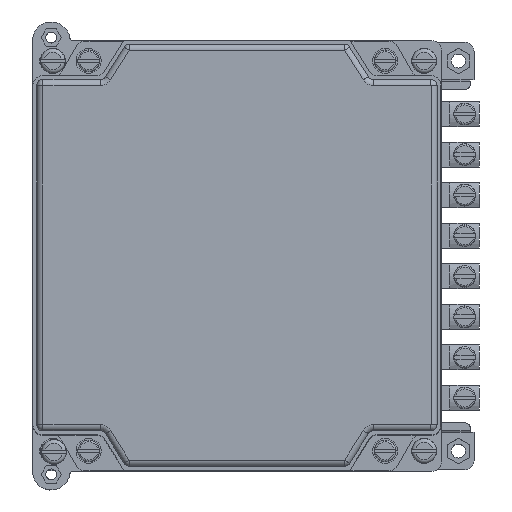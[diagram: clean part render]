
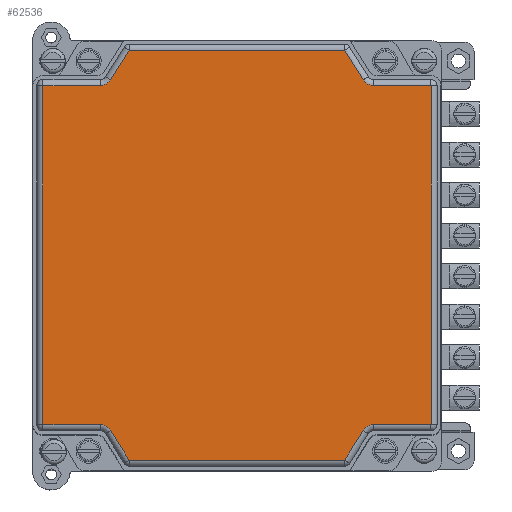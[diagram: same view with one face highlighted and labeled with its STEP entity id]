
A CAD part, top view. The second image highlights one B-rep face of the part: STEP entity #62536.
In plain terms, the highlighted planar face has unit normal (0, 0, 1).
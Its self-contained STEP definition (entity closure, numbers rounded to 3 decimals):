
#62536=ADVANCED_FACE('',(#119009),#119011,.T.);
#119009=FACE_BOUND('',#119010,.T.);
#119010=EDGE_LOOP('',(#161676,#161677,#161678,#161679,#161680,#161681,#161682,#161683,
#161684,#161685,#161686,#161687,#161688,#161689,#161690,#161691,#161692,#161693,
#161694,#161695,#161696,#161697,#161698,#161699));
#119011=PLANE('',#119012);
#119012=AXIS2_PLACEMENT_3D('',#119013,#119014,#119015);
#119013=CARTESIAN_POINT('',(0.,0.,156.5));
#119014=DIRECTION('',(0.,0.,1.));
#119015=DIRECTION('',(1.,0.,0.));
#161676=ORIENTED_EDGE('',*,*,#182718,.T.);
#161677=ORIENTED_EDGE('',*,*,#182765,.T.);
#161678=ORIENTED_EDGE('',*,*,#182763,.T.);
#161679=ORIENTED_EDGE('',*,*,#182761,.T.);
#161680=ORIENTED_EDGE('',*,*,#182759,.T.);
#161681=ORIENTED_EDGE('',*,*,#182757,.T.);
#161682=ORIENTED_EDGE('',*,*,#182755,.T.);
#161683=ORIENTED_EDGE('',*,*,#182753,.T.);
#161684=ORIENTED_EDGE('',*,*,#182751,.T.);
#161685=ORIENTED_EDGE('',*,*,#182749,.T.);
#161686=ORIENTED_EDGE('',*,*,#182747,.T.);
#161687=ORIENTED_EDGE('',*,*,#182745,.T.);
#161688=ORIENTED_EDGE('',*,*,#182743,.T.);
#161689=ORIENTED_EDGE('',*,*,#182741,.T.);
#161690=ORIENTED_EDGE('',*,*,#182739,.T.);
#161691=ORIENTED_EDGE('',*,*,#182737,.T.);
#161692=ORIENTED_EDGE('',*,*,#182735,.T.);
#161693=ORIENTED_EDGE('',*,*,#182733,.T.);
#161694=ORIENTED_EDGE('',*,*,#182731,.T.);
#161695=ORIENTED_EDGE('',*,*,#182729,.T.);
#161696=ORIENTED_EDGE('',*,*,#182727,.T.);
#161697=ORIENTED_EDGE('',*,*,#182725,.T.);
#161698=ORIENTED_EDGE('',*,*,#182723,.T.);
#161699=ORIENTED_EDGE('',*,*,#182721,.T.);
#182718=EDGE_CURVE('',#215075,#215076,#215077,.T.);
#182721=EDGE_CURVE('',#215080,#215075,#215081,.T.);
#182723=EDGE_CURVE('',#215083,#215080,#215084,.T.);
#182725=EDGE_CURVE('',#215086,#215083,#215087,.T.);
#182727=EDGE_CURVE('',#215089,#215086,#215090,.T.);
#182729=EDGE_CURVE('',#215092,#215089,#215093,.T.);
#182731=EDGE_CURVE('',#215095,#215092,#215096,.T.);
#182733=EDGE_CURVE('',#215098,#215095,#215099,.T.);
#182735=EDGE_CURVE('',#215101,#215098,#215102,.T.);
#182737=EDGE_CURVE('',#215104,#215101,#215105,.T.);
#182739=EDGE_CURVE('',#215107,#215104,#215108,.T.);
#182741=EDGE_CURVE('',#215110,#215107,#215111,.T.);
#182743=EDGE_CURVE('',#215113,#215110,#215114,.T.);
#182745=EDGE_CURVE('',#215116,#215113,#215117,.T.);
#182747=EDGE_CURVE('',#215119,#215116,#215120,.T.);
#182749=EDGE_CURVE('',#215122,#215119,#215123,.T.);
#182751=EDGE_CURVE('',#215125,#215122,#215126,.T.);
#182753=EDGE_CURVE('',#215128,#215125,#215129,.T.);
#182755=EDGE_CURVE('',#215131,#215128,#215132,.T.);
#182757=EDGE_CURVE('',#215134,#215131,#215135,.T.);
#182759=EDGE_CURVE('',#215137,#215134,#215138,.T.);
#182761=EDGE_CURVE('',#215140,#215137,#215141,.T.);
#182763=EDGE_CURVE('',#215143,#215140,#215144,.T.);
#182765=EDGE_CURVE('',#215076,#215143,#215146,.T.);
#215075=VERTEX_POINT('',#291507);
#215076=VERTEX_POINT('',#291508);
#215077=LINE('',#291509,#291510);
#215080=VERTEX_POINT('',#291520);
#215081=CIRCLE('',#291521,0.064);
#215083=VERTEX_POINT('',#291529);
#215084=LINE('',#291530,#291531);
#215086=VERTEX_POINT('',#291537);
#215087=CIRCLE('',#291538,3.936);
#215089=VERTEX_POINT('',#291546);
#215090=LINE('',#291547,#291548);
#215092=VERTEX_POINT('',#291554);
#215093=CIRCLE('',#291555,0.064);
#215095=VERTEX_POINT('',#291563);
#215096=LINE('',#291564,#291565);
#215098=VERTEX_POINT('',#291571);
#215099=CIRCLE('',#291572,0.064);
#215101=VERTEX_POINT('',#291580);
#215102=LINE('',#291581,#291582);
#215104=VERTEX_POINT('',#291588);
#215105=CIRCLE('',#291589,3.936);
#215107=VERTEX_POINT('',#291597);
#215108=LINE('',#291598,#291599);
#215110=VERTEX_POINT('',#291605);
#215111=CIRCLE('',#291606,0.064);
#215113=VERTEX_POINT('',#291614);
#215114=LINE('',#291615,#291616);
#215116=VERTEX_POINT('',#291622);
#215117=CIRCLE('',#291623,0.064);
#215119=VERTEX_POINT('',#291631);
#215120=LINE('',#291632,#291633);
#215122=VERTEX_POINT('',#291639);
#215123=CIRCLE('',#291640,3.936);
#215125=VERTEX_POINT('',#291648);
#215126=LINE('',#291649,#291650);
#215128=VERTEX_POINT('',#291656);
#215129=CIRCLE('',#291657,0.064);
#215131=VERTEX_POINT('',#291665);
#215132=LINE('',#291666,#291667);
#215134=VERTEX_POINT('',#291673);
#215135=CIRCLE('',#291674,0.064);
#215137=VERTEX_POINT('',#291682);
#215138=LINE('',#291683,#291684);
#215140=VERTEX_POINT('',#291690);
#215141=CIRCLE('',#291691,3.936);
#215143=VERTEX_POINT('',#291699);
#215144=LINE('',#291700,#291701);
#215146=CIRCLE('',#291707,0.064);
#291507=CARTESIAN_POINT('',(-62.214,54.3,156.5));
#291508=CARTESIAN_POINT('',(-62.214,-54.3,156.5));
#291509=CARTESIAN_POINT('',(-62.214,54.3,156.5));
#291510=VECTOR('',#291511,1.);
#291511=DIRECTION('',(0.,-1.,0.));
#291520=CARTESIAN_POINT('',(-62.15,54.364,156.5));
#291521=AXIS2_PLACEMENT_3D('',#291522,#291523,#291524);
#291522=CARTESIAN_POINT('',(-62.15,54.3,156.5));
#291523=DIRECTION('',(0.,0.,1.));
#291524=DIRECTION('',(0.,1.,0.));
#291529=CARTESIAN_POINT('',(-43.822,54.364,156.5));
#291530=CARTESIAN_POINT('',(-43.822,54.364,156.5));
#291531=VECTOR('',#291532,1.);
#291532=DIRECTION('',(-1.,0.,0.));
#291537=CARTESIAN_POINT('',(-40.492,56.201,156.5));
#291538=AXIS2_PLACEMENT_3D('',#291539,#291540,#291541);
#291539=CARTESIAN_POINT('',(-43.822,58.3,156.5));
#291540=DIRECTION('',(0.,0.,-1.));
#291541=DIRECTION('',(0.846,-0.533,0.));
#291546=CARTESIAN_POINT('',(-34.513,65.684,156.5));
#291547=CARTESIAN_POINT('',(-34.513,65.684,156.5));
#291548=VECTOR('',#291549,1.);
#291549=DIRECTION('',(-0.533,-0.846,0.));
#291554=CARTESIAN_POINT('',(-34.46,65.714,156.5));
#291555=AXIS2_PLACEMENT_3D('',#291556,#291557,#291558);
#291556=CARTESIAN_POINT('',(-34.46,65.65,156.5));
#291557=DIRECTION('',(0.,0.,1.));
#291558=DIRECTION('',(0.,1.,0.));
#291563=CARTESIAN_POINT('',(34.46,65.714,156.5));
#291564=CARTESIAN_POINT('',(34.46,65.714,156.5));
#291565=VECTOR('',#291566,1.);
#291566=DIRECTION('',(-1.,0.,0.));
#291571=CARTESIAN_POINT('',(34.513,65.684,156.5));
#291572=AXIS2_PLACEMENT_3D('',#291573,#291574,#291575);
#291573=CARTESIAN_POINT('',(34.46,65.65,156.5));
#291574=DIRECTION('',(0.,0.,1.));
#291575=DIRECTION('',(0.846,0.533,0.));
#291580=CARTESIAN_POINT('',(40.492,56.201,156.5));
#291581=CARTESIAN_POINT('',(40.492,56.201,156.5));
#291582=VECTOR('',#291583,1.);
#291583=DIRECTION('',(-0.533,0.846,0.));
#291588=CARTESIAN_POINT('',(43.822,54.364,156.5));
#291589=AXIS2_PLACEMENT_3D('',#291590,#291591,#291592);
#291590=CARTESIAN_POINT('',(43.822,58.3,156.5));
#291591=DIRECTION('',(0.,0.,-1.));
#291592=DIRECTION('',(0.,-1.,0.));
#291597=CARTESIAN_POINT('',(62.15,54.364,156.5));
#291598=CARTESIAN_POINT('',(62.15,54.364,156.5));
#291599=VECTOR('',#291600,1.);
#291600=DIRECTION('',(-1.,0.,0.));
#291605=CARTESIAN_POINT('',(62.214,54.3,156.5));
#291606=AXIS2_PLACEMENT_3D('',#291607,#291608,#291609);
#291607=CARTESIAN_POINT('',(62.15,54.3,156.5));
#291608=DIRECTION('',(0.,0.,1.));
#291609=DIRECTION('',(1.,0.,0.));
#291614=CARTESIAN_POINT('',(62.214,-54.3,156.5));
#291615=CARTESIAN_POINT('',(62.214,-54.3,156.5));
#291616=VECTOR('',#291617,1.);
#291617=DIRECTION('',(0.,1.,0.));
#291622=CARTESIAN_POINT('',(62.15,-54.364,156.5));
#291623=AXIS2_PLACEMENT_3D('',#291624,#291625,#291626);
#291624=CARTESIAN_POINT('',(62.15,-54.3,156.5));
#291625=DIRECTION('',(0.,0.,1.));
#291626=DIRECTION('',(0.,-1.,0.));
#291631=CARTESIAN_POINT('',(43.822,-54.364,156.5));
#291632=CARTESIAN_POINT('',(43.822,-54.364,156.5));
#291633=VECTOR('',#291634,1.);
#291634=DIRECTION('',(1.,0.,0.));
#291639=CARTESIAN_POINT('',(40.492,-56.201,156.5));
#291640=AXIS2_PLACEMENT_3D('',#291641,#291642,#291643);
#291641=CARTESIAN_POINT('',(43.822,-58.3,156.5));
#291642=DIRECTION('',(0.,0.,-1.));
#291643=DIRECTION('',(-0.846,0.533,0.));
#291648=CARTESIAN_POINT('',(34.513,-65.684,156.5));
#291649=CARTESIAN_POINT('',(34.513,-65.684,156.5));
#291650=VECTOR('',#291651,1.);
#291651=DIRECTION('',(0.533,0.846,0.));
#291656=CARTESIAN_POINT('',(34.46,-65.714,156.5));
#291657=AXIS2_PLACEMENT_3D('',#291658,#291659,#291660);
#291658=CARTESIAN_POINT('',(34.46,-65.65,156.5));
#291659=DIRECTION('',(0.,0.,1.));
#291660=DIRECTION('',(0.,-1.,0.));
#291665=CARTESIAN_POINT('',(-34.46,-65.714,156.5));
#291666=CARTESIAN_POINT('',(-34.46,-65.714,156.5));
#291667=VECTOR('',#291668,1.);
#291668=DIRECTION('',(1.,0.,0.));
#291673=CARTESIAN_POINT('',(-34.513,-65.684,156.5));
#291674=AXIS2_PLACEMENT_3D('',#291675,#291676,#291677);
#291675=CARTESIAN_POINT('',(-34.46,-65.65,156.5));
#291676=DIRECTION('',(0.,0.,1.));
#291677=DIRECTION('',(-0.846,-0.533,0.));
#291682=CARTESIAN_POINT('',(-40.492,-56.201,156.5));
#291683=CARTESIAN_POINT('',(-40.492,-56.201,156.5));
#291684=VECTOR('',#291685,1.);
#291685=DIRECTION('',(0.533,-0.846,0.));
#291690=CARTESIAN_POINT('',(-43.822,-54.364,156.5));
#291691=AXIS2_PLACEMENT_3D('',#291692,#291693,#291694);
#291692=CARTESIAN_POINT('',(-43.822,-58.3,156.5));
#291693=DIRECTION('',(0.,0.,-1.));
#291694=DIRECTION('',(0.,1.,0.));
#291699=CARTESIAN_POINT('',(-62.15,-54.364,156.5));
#291700=CARTESIAN_POINT('',(-62.15,-54.364,156.5));
#291701=VECTOR('',#291702,1.);
#291702=DIRECTION('',(1.,0.,0.));
#291707=AXIS2_PLACEMENT_3D('',#291708,#291709,#291710);
#291708=CARTESIAN_POINT('',(-62.15,-54.3,156.5));
#291709=DIRECTION('',(0.,0.,1.));
#291710=DIRECTION('',(-1.,0.,0.));
